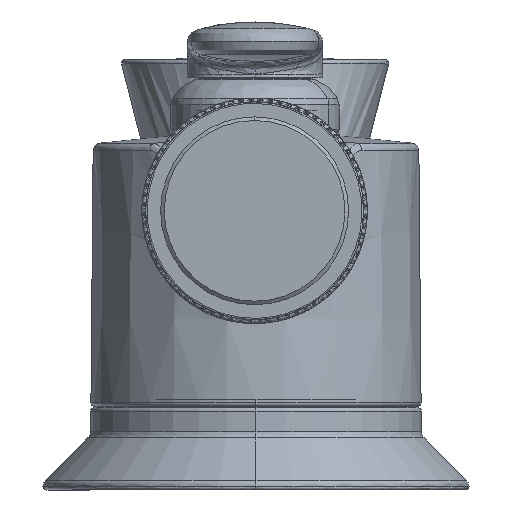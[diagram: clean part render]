
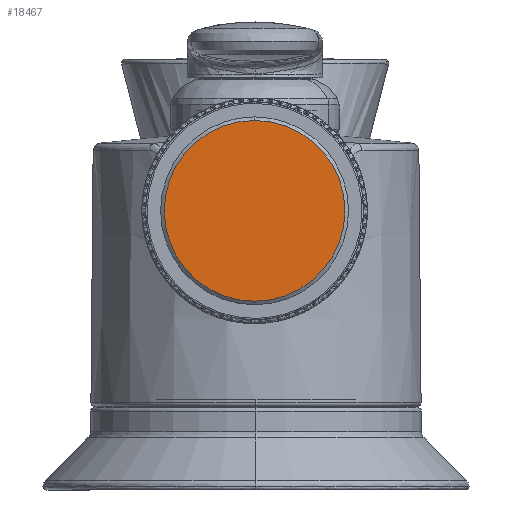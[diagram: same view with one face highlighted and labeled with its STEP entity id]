
A CAD part, front view. The second image highlights one B-rep face of the part: STEP entity #18467.
In plain terms, the highlighted planar face has unit normal (0, -1, 0).
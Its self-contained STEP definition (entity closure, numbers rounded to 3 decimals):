
#5407 = DIRECTION ( 'NONE',  ( 0., 0., -1. ) ) ;
#7429 = EDGE_LOOP ( 'NONE', ( #8212, #15306 ) ) ;
#8212 = ORIENTED_EDGE ( 'NONE', *, *, #78761, .T. ) ;
#12790 = DIRECTION ( 'NONE',  ( 0., 1., 0. ) ) ;
#13400 = EDGE_CURVE ( 'NONE', #13609, #56917, #34602, .T. ) ;
#13609 = VERTEX_POINT ( 'NONE', #53445 ) ;
#15306 = ORIENTED_EDGE ( 'NONE', *, *, #13400, .T. ) ;
#18467 = ADVANCED_FACE ( 'NONE', ( #40664 ), #82209, .F. ) ;
#27381 = CARTESIAN_POINT ( 'NONE',  ( -0.188, -155.576, 37.141 ) ) ;
#34002 = CIRCLE ( 'NONE', #84215, 12.023 ) ;
#34558 = CARTESIAN_POINT ( 'NONE',  ( -0.188, -155.576, 25.118 ) ) ;
#34602 = CIRCLE ( 'NONE', #41030, 12.023 ) ;
#36950 = CARTESIAN_POINT ( 'NONE',  ( -0.188, -155.576, 37.141 ) ) ;
#40664 = FACE_OUTER_BOUND ( 'NONE', #7429, .T. ) ;
#41030 = AXIS2_PLACEMENT_3D ( 'NONE', #36950, #43546, #64099 ) ;
#43546 = DIRECTION ( 'NONE',  ( 0., -1., 0. ) ) ;
#46739 = AXIS2_PLACEMENT_3D ( 'NONE', #27381, #12790, #75596 ) ;
#53445 = CARTESIAN_POINT ( 'NONE',  ( -0.188, -155.576, 49.165 ) ) ;
#56917 = VERTEX_POINT ( 'NONE', #34558 ) ;
#64099 = DIRECTION ( 'NONE',  ( 0., 0., -1. ) ) ;
#67626 = CARTESIAN_POINT ( 'NONE',  ( -0.188, -155.576, 37.141 ) ) ;
#73699 = DIRECTION ( 'NONE',  ( 0., -1., 0. ) ) ;
#75596 = DIRECTION ( 'NONE',  ( 0., 0., -1. ) ) ;
#78761 = EDGE_CURVE ( 'NONE', #56917, #13609, #34002, .T. ) ;
#82209 = PLANE ( 'NONE',  #46739 ) ;
#84215 = AXIS2_PLACEMENT_3D ( 'NONE', #67626, #73699, #5407 ) ;
